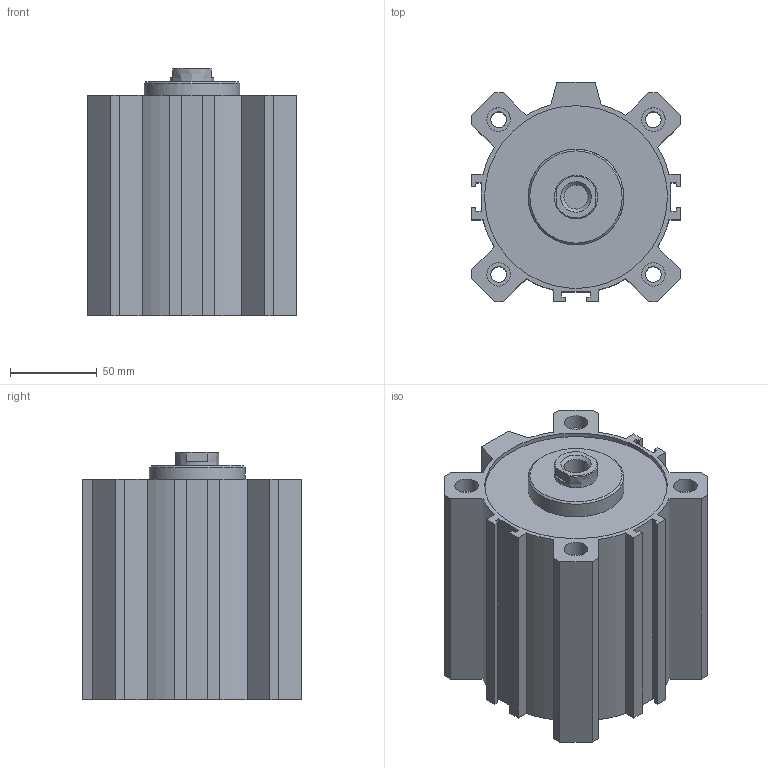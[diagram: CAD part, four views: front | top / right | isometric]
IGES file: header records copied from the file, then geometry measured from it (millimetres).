
Global section: file name: 1511_100_0075; native system: Autodesk Inventor 2014; preprocessor: unknown; author: A. Manieri; date: 20160824.162706; units: millimetre
Bounding box: 120 x 126 x 142.5 mm (x, y, z)
Volume: 930352.1 mm3; surface area: 197976.9 mm2
Topology: 2 solids, 2 shells, 119 faces, 307 edges, 210 vertices
Faces by surface type: bspline 119
